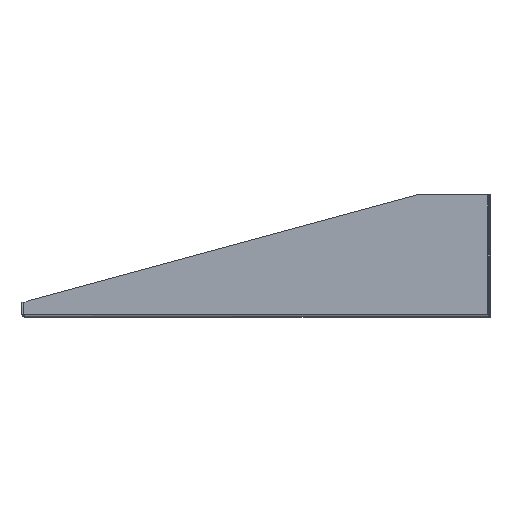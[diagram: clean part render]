
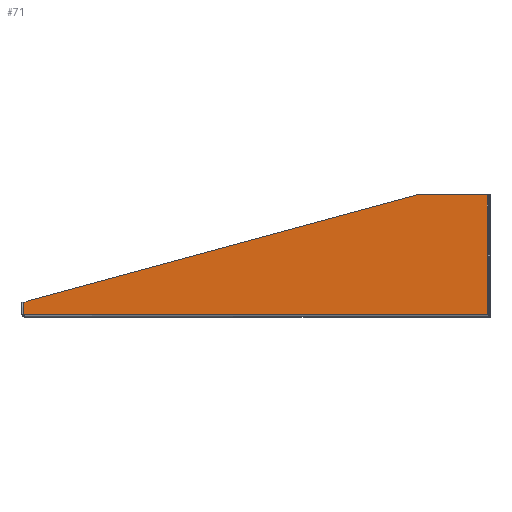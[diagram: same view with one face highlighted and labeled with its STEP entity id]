
A CAD part, left-side view. The second image highlights one B-rep face of the part: STEP entity #71.
In plain terms, the highlighted planar face has unit normal (-1, 0, 0).
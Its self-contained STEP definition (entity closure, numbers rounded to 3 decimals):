
#71 = ADVANCED_FACE( '', ( #1375 ), #1376, .F. );
#1375 = FACE_OUTER_BOUND( '', #3623, .T. );
#1376 = PLANE( '', #3624 );
#3623 = EDGE_LOOP( '', ( #7179, #7180, #7181, #7182, #7183, #7184, #7185, #7186 ) );
#3624 = AXIS2_PLACEMENT_3D( '', #7187, #7188, #7189 );
#7179 = ORIENTED_EDGE( '', *, *, #14918, .T. );
#7180 = ORIENTED_EDGE( '', *, *, #14920, .T. );
#7181 = ORIENTED_EDGE( '', *, *, #14927, .T. );
#7182 = ORIENTED_EDGE( '', *, *, #14928, .F. );
#7183 = ORIENTED_EDGE( '', *, *, #14929, .F. );
#7184 = ORIENTED_EDGE( '', *, *, #14930, .T. );
#7185 = ORIENTED_EDGE( '', *, *, #14931, .T. );
#7186 = ORIENTED_EDGE( '', *, *, #14932, .T. );
#7187 = CARTESIAN_POINT( '', ( -285.75, -253.086, 1.587 ) );
#7188 = DIRECTION( '', ( 1., 0., 0. ) );
#7189 = DIRECTION( '', ( 0., 0., -1. ) );
#14918 = EDGE_CURVE( '', #19158, #19156, #19159, .T. );
#14920 = EDGE_CURVE( '', #19156, #19135, #19161, .T. );
#14927 = EDGE_CURVE( '', #19135, #19119, #19171, .T. );
#14928 = EDGE_CURVE( '', #19172, #19119, #19173, .T. );
#14929 = EDGE_CURVE( '', #19174, #19172, #19175, .T. );
#14930 = EDGE_CURVE( '', #19174, #19176, #19177, .T. );
#14931 = EDGE_CURVE( '', #19176, #19178, #19179, .T. );
#14932 = EDGE_CURVE( '', #19178, #19158, #19180, .F. );
#19119 = VERTEX_POINT( '', #24321 );
#19135 = VERTEX_POINT( '', #24347 );
#19156 = VERTEX_POINT( '', #24410 );
#19158 = VERTEX_POINT( '', #24413 );
#19159 = LINE( '', #24414, #24415 );
#19161 = CIRCLE( '', #24418, 1.397 );
#19171 = LINE( '', #24463, #24464 );
#19172 = VERTEX_POINT( '', #24465 );
#19173 = LINE( '', #24466, #24467 );
#19174 = VERTEX_POINT( '', #24468 );
#19175 = LINE( '', #24469, #24470 );
#19176 = VERTEX_POINT( '', #24471 );
#19177 = LINE( '', #24472, #24473 );
#19178 = VERTEX_POINT( '', #24474 );
#19179 = LINE( '', #24475, #24476 );
#19180 = LINE( '', #24477, #24478 );
#24321 = CARTESIAN_POINT( '', ( -285.75, -252.171, 2.743 ) );
#24347 = CARTESIAN_POINT( '', ( -285.75, 250.714, 2.743 ) );
#24410 = CARTESIAN_POINT( '', ( -285.75, 251.255, 2.963 ) );
#24413 = CARTESIAN_POINT( '', ( -285.75, 251.255, 14.531 ) );
#24414 = CARTESIAN_POINT( '', ( -285.75, 251.255, 132.537 ) );
#24415 = VECTOR( '', #29710, 1000. );
#24418 = AXIS2_PLACEMENT_3D( '', #29712, #29713, #29714 );
#24463 = CARTESIAN_POINT( '', ( -285.75, 253.086, 2.743 ) );
#24464 = VECTOR( '', #29725, 1000. );
#24465 = CARTESIAN_POINT( '', ( -285.75, -252.171, 2.745 ) );
#24466 = CARTESIAN_POINT( '', ( -285.75, -252.171, 2.745 ) );
#24467 = VECTOR( '', #29726, 1000. );
#24468 = CARTESIAN_POINT( '', ( -285.75, -252.171, 132.537 ) );
#24469 = CARTESIAN_POINT( '', ( -285.75, -252.171, 2.745 ) );
#24470 = VECTOR( '', #29727, 1000. );
#24471 = CARTESIAN_POINT( '', ( -285.75, -174.981, 132.537 ) );
#24472 = CARTESIAN_POINT( '', ( -285.75, -253.086, 132.537 ) );
#24473 = VECTOR( '', #29728, 1000. );
#24474 = CARTESIAN_POINT( '', ( -285.75, 248.721, 17.064 ) );
#24475 = CARTESIAN_POINT( '', ( -285.75, -214.465, 143.298 ) );
#24476 = VECTOR( '', #29729, 1000. );
#24477 = CARTESIAN_POINT( '', ( -285.75, 248.721, 17.064 ) );
#24478 = VECTOR( '', #29730, 1000. );
#29710 = DIRECTION( '', ( 0., 0., -1. ) );
#29712 = CARTESIAN_POINT( '', ( -285.75, 251.498, 1.587 ) );
#29713 = DIRECTION( '', ( 1., 0., 0. ) );
#29714 = DIRECTION( '', ( 0., 1., 0. ) );
#29725 = DIRECTION( '', ( 0., -1., 0. ) );
#29726 = DIRECTION( '', ( 0., 0., -1. ) );
#29727 = DIRECTION( '', ( 0., 0., -1. ) );
#29728 = DIRECTION( '', ( 0., 1., 0. ) );
#29729 = DIRECTION( '', ( 0., 0.965, -0.263 ) );
#29730 = DIRECTION( '', ( 0., -0.707, 0.707 ) );
